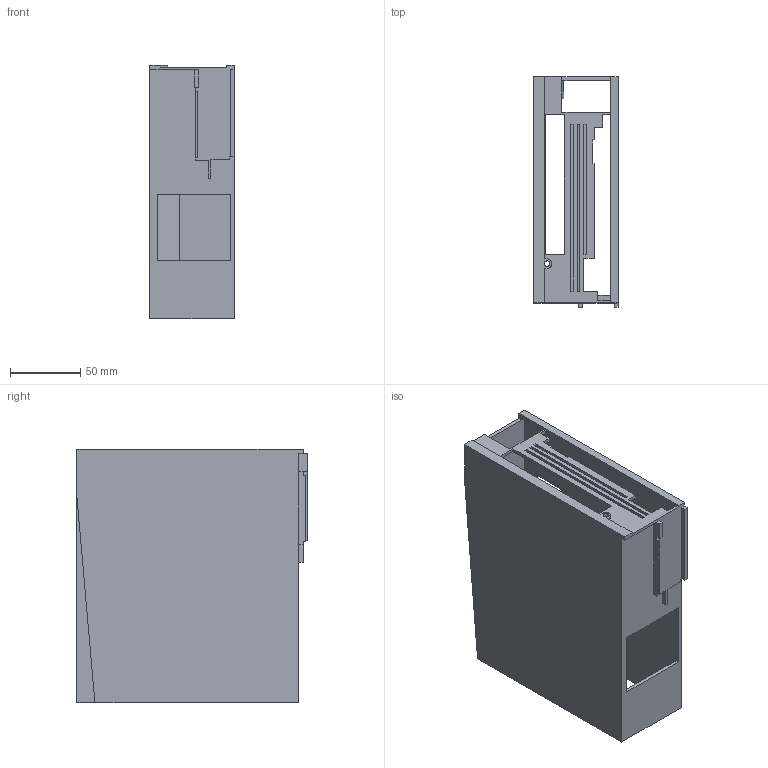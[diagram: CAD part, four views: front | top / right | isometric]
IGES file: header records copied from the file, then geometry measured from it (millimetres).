
Start section:  PTC IGES file: j4rj-70-100b-case.igs
Global section: file name: j4rj-70-100b-case.igs; native system: Pro/ENGINEER by Parametric Technology Corporation; preprocessor: 2011490; author: JE18792; organization: Unknown; date: 20131128.192058; units: millimetre
Bounding box: 60 x 164 x 180.2 mm (x, y, z)
Volume: 201816 mm3; surface area: 162698.8 mm2
Topology: 1 solids, 1 shells, 106 faces, 312 edges, 207 vertices
Faces by surface type: bspline 106
